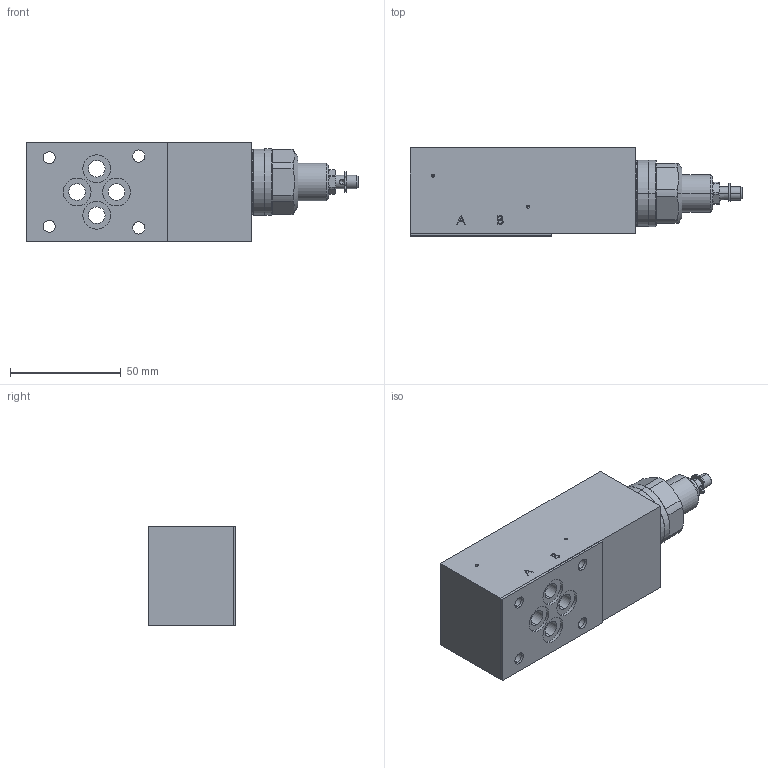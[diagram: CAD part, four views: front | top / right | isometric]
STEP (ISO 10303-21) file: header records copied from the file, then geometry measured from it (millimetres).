
FILE_DESCRIPTION (( 'STEP AP214' ), '1' );
FILE_NAME ('QZSSA06-B.STEP', '2017-04-19T11:15:39', ( '' ), ( '' ), 'SwSTEP 2.0', 'SolidWorks 2016', '' );
FILE_SCHEMA (( 'AUTOMOTIVE_DESIGN' ));
Length unit declared in the file: millimetre
Products named in the file (1): QZSSA06-B
Bounding box: 150.1 x 39.75 x 45 mm (x, y, z)
Volume: 185215.8 mm3; surface area: 37474.1 mm2
Topology: 5 solids, 9 shells, 319 faces, 795 edges, 495 vertices
Faces by surface type: plane 119, cylinder 116, cone 59, torus 12, bspline 9, sphere 4
Entity records: 13817 total; most frequent: CARTESIAN_POINT 2547, DIRECTION 1661, ORIENTED_EDGE 1558, EDGE_CURVE 779, AXIS2_PLACEMENT_3D 649, VERTEX_POINT 495, EDGE_LOOP 376, VECTOR 363
